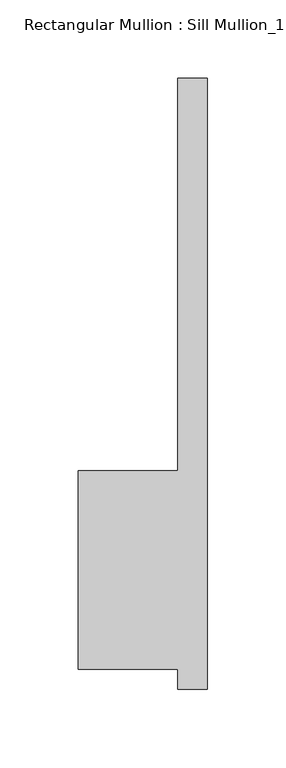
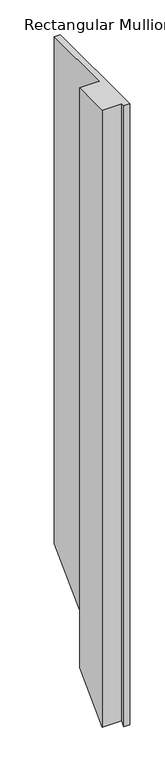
"""IFC4 building model written with IfcOpenShell, lengths in millimetres: member geometry."""

from ifc_helpers import new_model, si_unit, origin, place, context, project, spatial, faceted_brep, source, transform, mapped, element, save


def member_e7ea4772(model_context):
    return source(origin(), model_context, "Body", "Brep", [
        faceted_brep([(-82.55, 50.8, 0.0), (-82.55, -76.2, 0.0), (-19.05, -76.2, 0.0), (-19.05, -88.9, 0.0), (0.0, -88.9, 0.0), (0.0, 301.625, 0.0), (-19.05, 301.625, 0.0), (-19.05, 50.8, 0.0), (-82.55, 50.8, -1990.725), (-82.55, -76.2, -2117.725), (-19.05, -76.2, -2117.725), (-19.05, -88.9, -2130.425), (0.0, -88.9, -2130.425), (0.0, 301.625, -1739.9), (-19.05, 301.625, -1739.9), (-19.05, 50.8, -1990.725)], [[[0, 1, 2, 3, 4, 5, 6, 7]], [[1, 0, 8, 9]], [[2, 1, 9, 10]], [[3, 2, 10, 11]], [[4, 3, 11, 12]], [[5, 4, 12, 13]], [[6, 5, 13, 14]], [[7, 6, 14, 15]], [[0, 7, 15, 8]], [[8, 15, 14, 13, 12, 11, 10, 9]]]),
    ])


if __name__ == "__main__":
    model = new_model("IFC4")
    model_context = context("Model", 3, world=origin())
    ifc_project = project(units=[si_unit("LENGTHUNIT", "METRE", prefix="MILLI")], contexts=[model_context])
    site = spatial("IfcSite", under=ifc_project)
    building = spatial("IfcBuilding", under=site)
    placement = place(None, origin())
    member_shape = member_e7ea4772(model_context)
    element("IfcMember", 1, ObjectType="Rectangular Mullion : Sill Mullion_15\" thick wall", at=placement, inside=building, context=model_context, shape_type="MappedRepresentation", body=[
        mapped(member_shape, transform((0.0, 0.0, 0.0), x_axis=(1.0, 0.0, 0.0), y_axis=(0.0, 1.0, 0.0), z_axis=(0.0, 0.0, 1.0))),
    ])
    save(model, "model.ifc")
